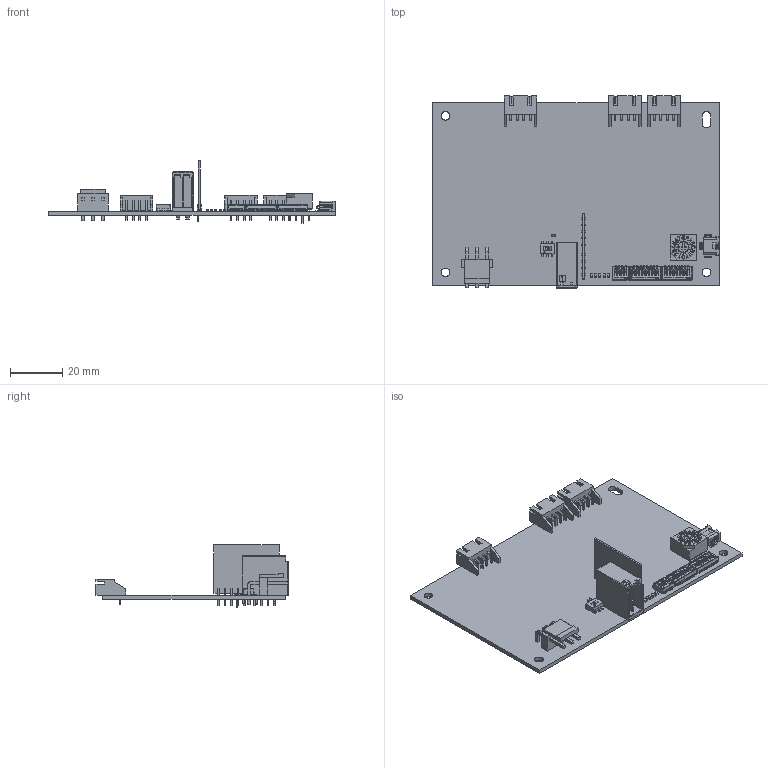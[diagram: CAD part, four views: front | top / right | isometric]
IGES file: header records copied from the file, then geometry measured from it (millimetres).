
Start section: SolidWorks IGES file using analytic representation for surfaces
Bounding box: 110 x 73.61 x 23.8 mm (x, y, z)
Surface area: 23507.2 mm2 (no closed solid volume)
Topology: 0 solids, 0 shells, 3194 faces, 23304 edges, 23304 vertices
Faces by surface type: bspline 2465, revolution 729
